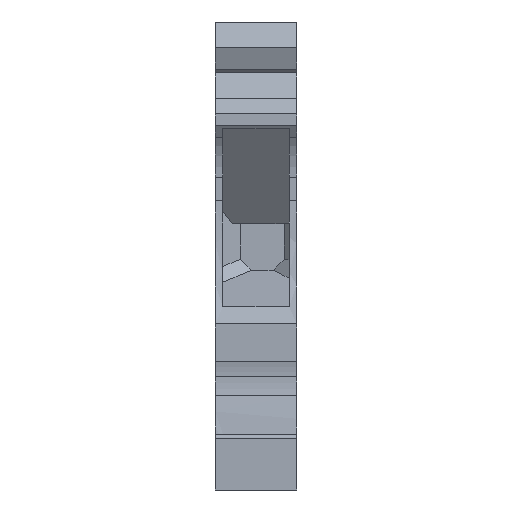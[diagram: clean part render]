
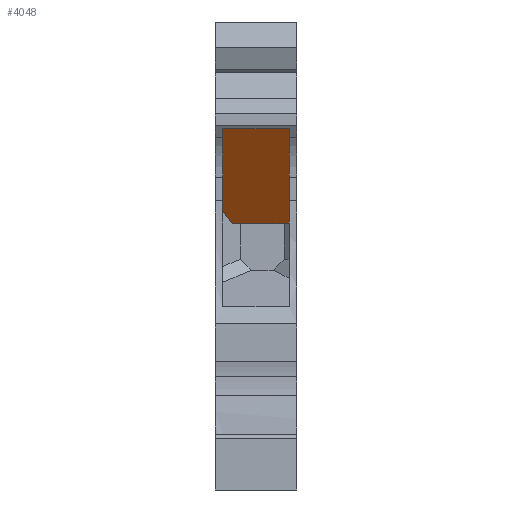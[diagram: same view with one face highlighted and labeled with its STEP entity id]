
A CAD part, front view. The second image highlights one B-rep face of the part: STEP entity #4048.
In plain terms, the highlighted planar face has unit normal (0, -0.791, -0.612).
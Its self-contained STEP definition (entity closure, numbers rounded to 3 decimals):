
#3625=CARTESIAN_POINT('',(0.75,2.395,36.172));
#3626=VERTEX_POINT('',#3625);
#3633=CARTESIAN_POINT('',(7.4,2.395,36.172));
#3634=VERTEX_POINT('',#3633);
#3635=CARTESIAN_POINT('',(0.75,2.395,36.172));
#3636=DIRECTION('',(1.,0.,-0.));
#3637=VECTOR('',#3636,6.65);
#3638=LINE('',#3635,#3637);
#3639=EDGE_CURVE('',#3626,#3634,#3638,.T.);
#3714=CARTESIAN_POINT('',(0.75,8.8,27.894));
#3715=VERTEX_POINT('',#3714);
#3721=CARTESIAN_POINT('',(0.75,8.8,27.894));
#3722=CARTESIAN_POINT('',(0.75,2.395,36.172));
#3723=B_SPLINE_CURVE_WITH_KNOTS('',1,(#3721,#3722),.UNSPECIFIED.,.F.,.F.,(2,2),(0.,10.467),.UNSPECIFIED.);
#3724=EDGE_CURVE('',#3715,#3626,#3723,.T.);
#3776=CARTESIAN_POINT('',(7.4,9.65,26.795));
#3777=VERTEX_POINT('',#3776);
#3803=CARTESIAN_POINT('',(7.4,9.65,26.795));
#3804=DIRECTION('',(0.,-0.612,0.791));
#3805=VECTOR('',#3804,11.856);
#3806=LINE('',#3803,#3805);
#3807=EDGE_CURVE('',#3777,#3634,#3806,.T.);
#4018=CARTESIAN_POINT('',(0.75,0.245,38.951));
#4019=DIRECTION('',(0.,0.791,0.612));
#4020=DIRECTION('',(-1.,0.,0.));
#4021=AXIS2_PLACEMENT_3D('',#4018,#4019,#4020);
#4022=PLANE('',#4021);
#4023=CARTESIAN_POINT('',(7.3,9.75,26.666));
#4024=VERTEX_POINT('',#4023);
#4025=CARTESIAN_POINT('',(7.4,9.65,26.795));
#4026=CARTESIAN_POINT('',(7.3,9.75,26.666));
#4027=B_SPLINE_CURVE_WITH_KNOTS('',1,(#4025,#4026),.UNSPECIFIED.,.F.,.F.,(2,2),(0.,0.192),.UNSPECIFIED.);
#4028=EDGE_CURVE('',#3777,#4024,#4027,.T.);
#4029=ORIENTED_EDGE('',*,*,#4028,.F.);
#4030=ORIENTED_EDGE('',*,*,#3807,.T.);
#4031=ORIENTED_EDGE('',*,*,#3639,.F.);
#4032=ORIENTED_EDGE('',*,*,#3724,.F.);
#4033=CARTESIAN_POINT('',(1.7,9.75,26.666));
#4034=VERTEX_POINT('',#4033);
#4035=CARTESIAN_POINT('',(1.7,9.75,26.666));
#4036=CARTESIAN_POINT('',(0.75,8.8,27.894));
#4037=B_SPLINE_CURVE_WITH_KNOTS('',1,(#4035,#4036),.UNSPECIFIED.,.F.,.F.,(2,2),(0.,1.82),.UNSPECIFIED.);
#4038=EDGE_CURVE('',#4034,#3715,#4037,.T.);
#4039=ORIENTED_EDGE('',*,*,#4038,.F.);
#4040=CARTESIAN_POINT('',(7.3,9.75,26.666));
#4041=DIRECTION('',(-1.,0.,0.));
#4042=VECTOR('',#4041,5.6);
#4043=LINE('',#4040,#4042);
#4044=EDGE_CURVE('',#4024,#4034,#4043,.T.);
#4045=ORIENTED_EDGE('',*,*,#4044,.F.);
#4046=EDGE_LOOP('',(#4029,#4030,#4031,#4032,#4039,#4045));
#4047=FACE_BOUND('',#4046,.T.);
#4048=ADVANCED_FACE('',(#4047),#4022,.F.);
